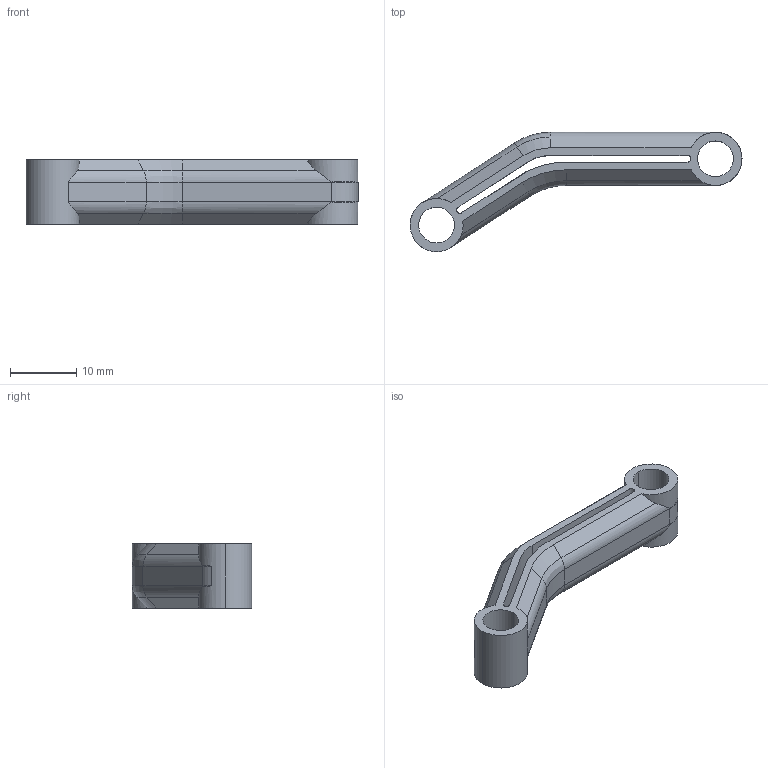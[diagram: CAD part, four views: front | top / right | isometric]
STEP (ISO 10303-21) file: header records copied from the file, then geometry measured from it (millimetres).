
FILE_DESCRIPTION(/* description */ (''),/* implementation_level */ '2;1');
FILE_NAME(/* name */ 'Tetrapod Femur ReDo V2',/* time_stamp */ '2025-05-15T10:33:10-04:00',/* author */ (''),/* organization */ (''),/* preprocessor_version */ 'ST-DEVELOPER v19.2',/* originating_system */ 'Rhino 8.18',/* authorisation */ '');
FILE_SCHEMA (('CONFIG_CONTROL_DESIGN'));
Length unit declared in the file: millimetre
Products named in the file (1): Document
Bounding box: 50.1 x 18.02 x 9.7 mm (x, y, z)
Volume: 2764.2 mm3; surface area: 2570.6 mm2
Topology: 1 solids, 1 shells, 60 faces, 142 edges, 84 vertices
Faces by surface type: cylinder 29, bspline 16, plane 15
Entity records: 2463 total; most frequent: CARTESIAN_POINT 1269, ORIENTED_EDGE 284, EDGE_CURVE 142, DIRECTION 127, VERTEX_POINT 84, AXIS2_PLACEMENT_3D 83, B_SPLINE_CURVE_WITH_KNOTS 73, EDGE_LOOP 66
